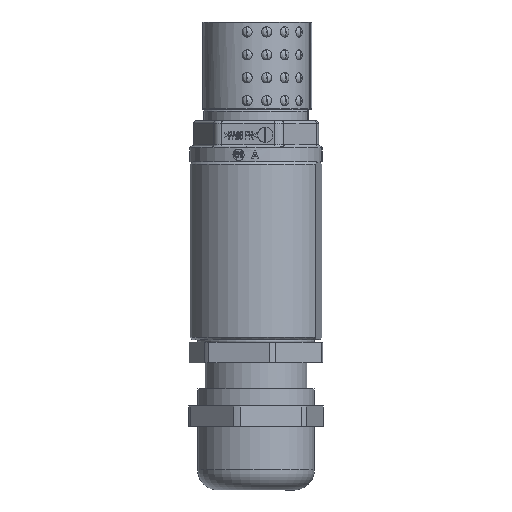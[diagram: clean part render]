
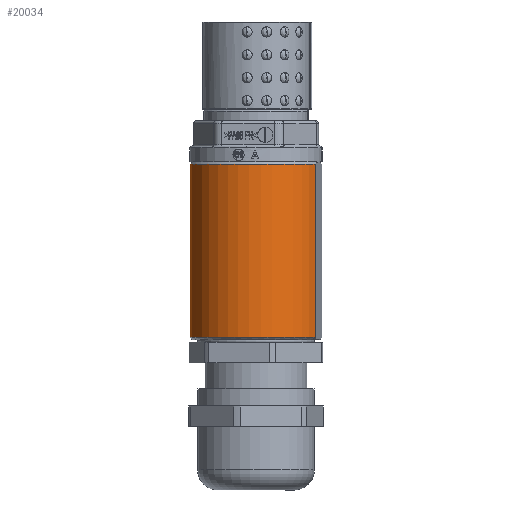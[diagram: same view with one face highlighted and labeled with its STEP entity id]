
A CAD part, front view. The second image highlights one B-rep face of the part: STEP entity #20034.
In plain terms, the highlighted cylindrical face has radius 13 mm (diameter 26 mm), a partial arc.
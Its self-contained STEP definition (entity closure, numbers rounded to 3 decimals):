
#3629 = VECTOR ( 'NONE', #66085, 1000. ) ;
#3845 = DIRECTION ( 'NONE',  ( 0.983, -0.184, 0. ) ) ;
#7745 = DIRECTION ( 'NONE',  ( 0.983, -0.184, 0. ) ) ;
#9244 = EDGE_CURVE ( 'NONE', #47043, #24641, #34555, .T. ) ;
#9637 = DIRECTION ( 'NONE',  ( 0., 0., -1. ) ) ;
#11355 = EDGE_CURVE ( 'NONE', #47043, #70939, #37390, .T. ) ;
#13308 = CARTESIAN_POINT ( 'NONE',  ( -0.158, 0.789, -46.325 ) ) ;
#14506 = ORIENTED_EDGE ( 'NONE', *, *, #9244, .F. ) ;
#19647 = CARTESIAN_POINT ( 'NONE',  ( -0.158, 0.789, -11.825 ) ) ;
#20034 = ADVANCED_FACE ( 'NONE', ( #27058 ), #60391, .T. ) ;
#24641 = VERTEX_POINT ( 'NONE', #46021 ) ;
#25539 = AXIS2_PLACEMENT_3D ( 'NONE', #32018, #54602, #3845 ) ;
#26677 = CARTESIAN_POINT ( 'NONE',  ( -13.102, -0.42, -46.325 ) ) ;
#27058 = FACE_OUTER_BOUND ( 'NONE', #36801, .T. ) ;
#29014 = CARTESIAN_POINT ( 'NONE',  ( 11.471, -5.021, -4.666 ) ) ;
#31489 = VERTEX_POINT ( 'NONE', #26677 ) ;
#32018 = CARTESIAN_POINT ( 'NONE',  ( -0.158, 0.789, -12.325 ) ) ;
#33733 = ORIENTED_EDGE ( 'NONE', *, *, #53378, .T. ) ;
#33909 = VECTOR ( 'NONE', #34183, 1000. ) ;
#34183 = DIRECTION ( 'NONE',  ( 0., 0., -1. ) ) ;
#34555 = LINE ( 'NONE', #29014, #33909 ) ;
#36801 = EDGE_LOOP ( 'NONE', ( #14506, #57160, #64097, #33733 ) ) ;
#37390 = CIRCLE ( 'NONE', #25539, 13. ) ;
#39030 = EDGE_CURVE ( 'NONE', #70939, #31489, #43499, .T. ) ;
#40560 = AXIS2_PLACEMENT_3D ( 'NONE', #13308, #47020, #7745 ) ;
#43499 = LINE ( 'NONE', #71293, #3629 ) ;
#46021 = CARTESIAN_POINT ( 'NONE',  ( 11.471, -5.021, -46.325 ) ) ;
#47020 = DIRECTION ( 'NONE',  ( 0., 0., 1. ) ) ;
#47043 = VERTEX_POINT ( 'NONE', #50503 ) ;
#49993 = CARTESIAN_POINT ( 'NONE',  ( -13.102, -0.42, -12.325 ) ) ;
#50503 = CARTESIAN_POINT ( 'NONE',  ( 11.471, -5.021, -12.325 ) ) ;
#53378 = EDGE_CURVE ( 'NONE', #31489, #24641, #60634, .T. ) ;
#54602 = DIRECTION ( 'NONE',  ( 0., 0., -1. ) ) ;
#54834 = DIRECTION ( 'NONE',  ( -0.983, 0.184, 0. ) ) ;
#57115 = AXIS2_PLACEMENT_3D ( 'NONE', #19647, #9637, #54834 ) ;
#57160 = ORIENTED_EDGE ( 'NONE', *, *, #11355, .T. ) ;
#60391 = CYLINDRICAL_SURFACE ( 'NONE', #57115, 13. ) ;
#60634 = CIRCLE ( 'NONE', #40560, 13. ) ;
#64097 = ORIENTED_EDGE ( 'NONE', *, *, #39030, .T. ) ;
#66085 = DIRECTION ( 'NONE',  ( 0., 0., -1. ) ) ;
#70939 = VERTEX_POINT ( 'NONE', #49993 ) ;
#71293 = CARTESIAN_POINT ( 'NONE',  ( -13.102, -0.42, -4.666 ) ) ;
